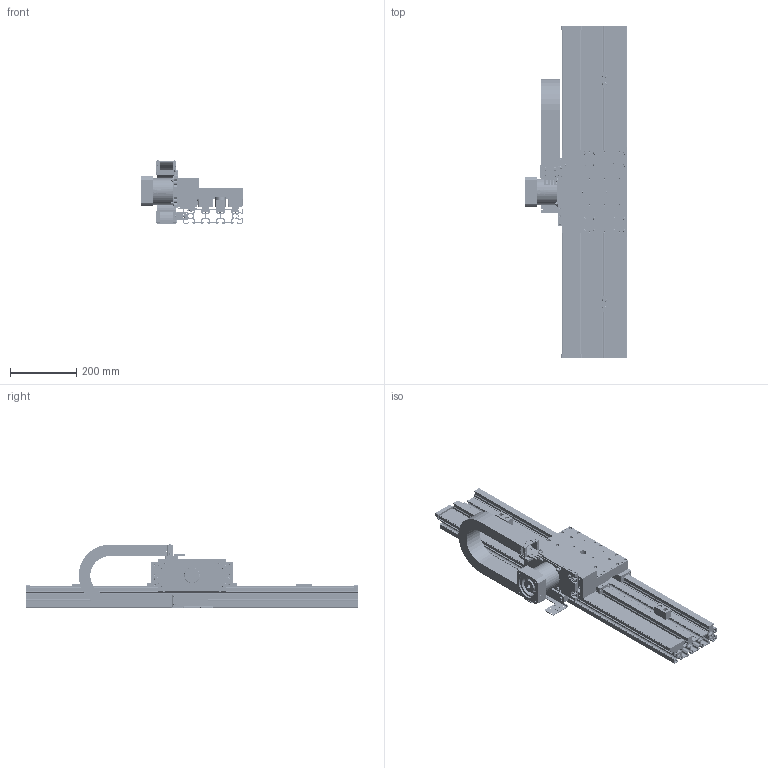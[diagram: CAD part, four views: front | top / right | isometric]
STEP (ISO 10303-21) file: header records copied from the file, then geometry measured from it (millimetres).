
FILE_DESCRIPTION( ( '' ), ' ' );
FILE_NAME( '/vol/tmp/translate-12445376518259095168/5c7eb06f408f181ac33a6a14.step', '2019-03-05T17:22:56', ( '' ), ( '' ), ' ', ' ', ' ' );
FILE_SCHEMA( ( 'AUTOMOTIVE_DESIGN { 1 0 10303 214 1 1 1 1 }' ) );
Length unit declared in the file: metre
Products named in the file (114): RAIL FASTENERS <3>; 20mm BEARING RAIL CAP; 100001-8065 M5-.80 X 25 ALLOY SHCS; 102684-001 BOSCH 10mm T-BLOCK M5; RAIL FASTENERS <10>; RAIL FASTENERS <1>; RAIL FASTENERS <16>; RAIL FASTENERS <6>; RAIL FASTENERS <13>; FASTENERS <2>; 102811-002 M6 T-NUT; 100001-073 M6 X 12 SS SHCS; RAIL FASTENERS <7>; RAIL FASTENERS <5>; FASTENERS <1>; RAIL FASTENERS <15>; FASTENERS <3>; RAIL FASTENERS <2>; RAIL FASTENERS <9>; RAIL FASTENERS <17>; RAIL FASTENERS <11>; RAIL FASTENERS <14>; FASTENERS <5>; RAIL FASTENERS <12>; RAIL FASTENERS <4>; RAIL FASTENERS <8>; FASTENERS <4>; RAIL <2>; 106888-001 20mm RAIL COVER; 102732-1000 20mm STANDARD GUIDE RAIL; PLQE080-005-TEKNIC34 & PINION <1>; 103795-008 SBL-H PINION 20mm BORE 6mm KEY LOCK; PLQE080-005-TEKNIC34; 100013-079 M5 X 10 SS SET SCREW; RAIL <1>; IGUS E6-29-040 END BRACKET (1) <2>; iguse6-29-040-2; iguse6-29-040-3(Default); iguse6-29-040-1; iguse6-29-040-4(Default)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
Assembly tree (296 placements, depth 5):
  Assem1
    E6-29-40 LINKS
    103072-001 T10 X 50mm BELTING
    PLQE080-005-TEKNIC34 MOUNT <1>
      100011-8047 M6-1.0 X 20 ALLOY FHCS  x4
      100003-006 M8 SS F/W  x4
      100001-086 M8-1.25 X 20 SS SHCS  x4
      100007-001 M6 SS HEX NUT  x4
      100013-072 M6 X 12 SS SET SCREW  x2
      105326-006 SBL-H NEUGART GEARBOX MOTOR MOUNT PLATE
      PLQE080-005-TEKNIC34 & PINION <1>
        103795-008 SBL-H PINION 20mm BORE 6mm KEY LOCK
        PLQE080-005-TEKNIC34
        100013-079 M5 X 10 SS SET SCREW  x2
    1000 CHASSIS <1>
      102572-1000 45-SERIES PROFILE 45X180H
      RAIL <2>
        106888-001 20mm RAIL COVER
        102732-1000 20mm STANDARD GUIDE RAIL
        RAIL FASTENERS <15>
          20mm BEARING RAIL CAP
          100001-8065 M5-.80 X 25 ALLOY SHCS
          102684-001 BOSCH 10mm T-BLOCK M5
        RAIL FASTENERS <17>
          100001-8065 M5-.80 X 25 ALLOY SHCS
          20mm BEARING RAIL CAP
          102684-001 BOSCH 10mm T-BLOCK M5
        RAIL FASTENERS <10>
          100001-8065 M5-.80 X 25 ALLOY SHCS
          102684-001 BOSCH 10mm T-BLOCK M5
          20mm BEARING RAIL CAP
        RAIL FASTENERS <3>
          20mm BEARING RAIL CAP
          100001-8065 M5-.80 X 25 ALLOY SHCS
          102684-001 BOSCH 10mm T-BLOCK M5
        RAIL FASTENERS <1>
          102684-001 BOSCH 10mm T-BLOCK M5
          100001-8065 M5-.80 X 25 ALLOY SHCS
          20mm BEARING RAIL CAP
        RAIL FASTENERS <5>
          102684-001 BOSCH 10mm T-BLOCK M5
          100001-8065 M5-.80 X 25 ALLOY SHCS
          20mm BEARING RAIL CAP
        RAIL FASTENERS <12>
          102684-001 BOSCH 10mm T-BLOCK M5
          100001-8065 M5-.80 X 25 ALLOY SHCS
          20mm BEARING RAIL CAP
        RAIL FASTENERS <9>
          100001-8065 M5-.80 X 25 ALLOY SHCS
          102684-001 BOSCH 10mm T-BLOCK M5
          20mm BEARING RAIL CAP
        RAIL FASTENERS <13>
          102684-001 BOSCH 10mm T-BLOCK M5
          20mm BEARING RAIL CAP
          100001-8065 M5-.80 X 25 ALLOY SHCS
        RAIL FASTENERS <8>
          20mm BEARING RAIL CAP
          102684-001 BOSCH 10mm T-BLOCK M5
          100001-8065 M5-.80 X 25 ALLOY SHCS
        RAIL FASTENERS <2>
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Bounding box: 306.12 x 1000 x 189.79 mm (x, y, z)
Volume: 7839190.3 mm3; surface area: 3350942.1 mm2
Topology: 240 solids, 241 shells, 5854 faces, 14787 edges, 9772 vertices
Faces by surface type: plane 3794, cylinder 1574, cone 382, torus 98, bspline 4, sphere 2
Full cylindrical faces by diameter (mm): 2.5 x32, 2.54 x2, 2.6 x8, 2.66 x8, 3 x8, 3.3 x2, 3.6 x2, 3.988 x6, 4 x4, 4.2 x8, 4.216 x24, 4.5 x16, 5 x72, 5.004 x52, 5.1 x1, 5.5 x36, 5.8 x16, 5.867 x2, 5.994 x15, 6 x18, 6.2 x4, 6.4 x1, 6.5 x6, 6.6 x5, 6.8 x6, 6.858 x2, 7 x6, 7.112 x5, 7.5 x16, 7.74 x4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
Entity records: 104342 total; most frequent: CARTESIAN_POINT 16432, DIRECTION 14152, ORIENTED_EDGE 12714, EDGE_CURVE 6357, AXIS2_PLACEMENT_3D 4999, VERTEX_POINT 4479, LINE 4154, VECTOR 4154
